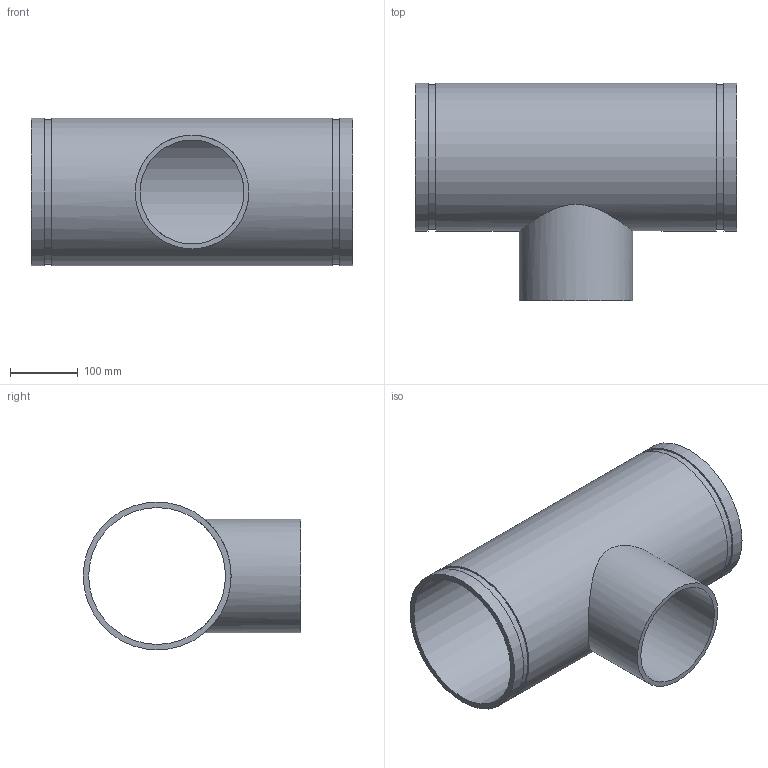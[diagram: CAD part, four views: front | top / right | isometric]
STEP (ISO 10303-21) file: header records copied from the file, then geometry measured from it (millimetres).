
FILE_DESCRIPTION(/* description */ ('VIC REDUCING TEE No 29T FFT (OGSxMPT)','CAx-IF Rec.Pracs.---Representation and Presentation of Product Manufacturing Information (PMI)---4.0---2014-10-13'),/* implementation_level */ '2;1');
FILE_NAME(/* name */ 'C:\Users\kkamble\AppData\Roaming\Autodesk\ApplicationPlugins\Back Up\Victaulic_IPS_Tee Reducing_No 29T FFT (OGSxMPT)\Victaulic_IPS_Tee Reducing_No 29T FFT (OGSxMPT)_08.0x06.0 (200x150).stp',/* time_stamp */ '2020-09-16T22:38:56+05:00',/* author */ ('CORINNE GRAY'),/* organization */ ('Victaulic'),/* preprocessor_version */ 'ST-DEVELOPER v17.2',/* originating_system */ 'Autodesk Inventor 2019',/* authorisation */ '');
FILE_SCHEMA (('AP242_MANAGED_MODEL_BASED_3D_ENGINEERING_MIM_LF { 1 0 10303 442 1 1 4 }'));
Length unit declared in the file: inch
Products named in the file (1): 29 FFT-08.0x06.0
Bounding box: 476.5 x 322.39 x 219.07 mm (x, y, z)
Volume: 2814156.5 mm3; surface area: 733605.4 mm2
Topology: 1 solids, 1 shells, 15 faces, 32 edges, 24 vertices
Faces by surface type: cylinder 8, plane 7
Full cylindrical faces by diameter (mm): 154.051 x1, 168.275 x1, 202.717 x1, 214.401 x2, 219.075 x3
Entity records: 709 total; most frequent: CARTESIAN_POINT 221, DIRECTION 106, ORIENTED_EDGE 64, AXIS2_PLACEMENT_3D 49, EDGE_CURVE 32, EDGE_LOOP 24, VERTEX_POINT 24, CIRCLE 20
